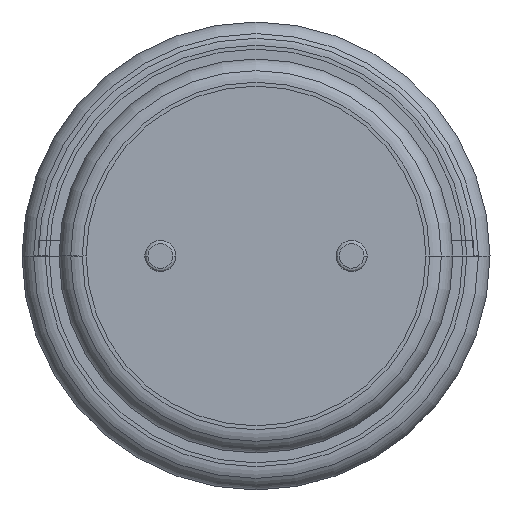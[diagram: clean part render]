
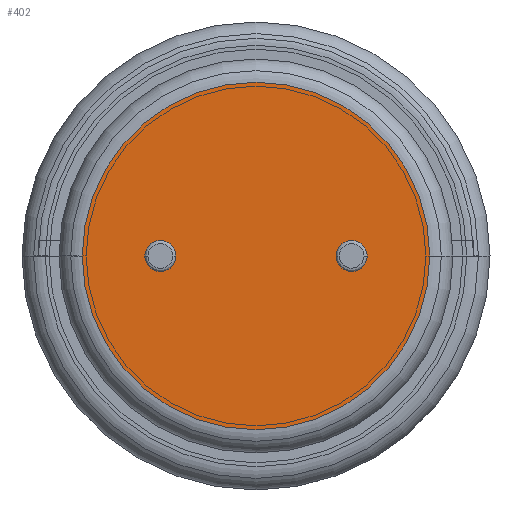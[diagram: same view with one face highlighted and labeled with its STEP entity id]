
A CAD part, left-side view. The second image highlights one B-rep face of the part: STEP entity #402.
In plain terms, the highlighted planar face has unit normal (-1, 0, 0) as drawn and (1, 0, 0) by its records, which use the part's own axes.
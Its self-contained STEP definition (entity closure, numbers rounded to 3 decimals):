
#343=CARTESIAN_POINT('Axis2P3D Location',(7.75,0.,0.)) ;
#348=CARTESIAN_POINT('Axis2P3D Location',(7.75,0.,0.)) ;
#352=CARTESIAN_POINT('Vertex',(7.75,11.2,0.)) ;
#354=CARTESIAN_POINT('Vertex',(7.75,-11.2,0.)) ;
#357=CARTESIAN_POINT('Axis2P3D Location',(7.75,0.,0.)) ;
#366=CARTESIAN_POINT('Axis2P3D Location',(7.75,-6.166,0.)) ;
#370=CARTESIAN_POINT('Vertex',(7.75,-5.166,0.)) ;
#372=CARTESIAN_POINT('Vertex',(7.75,-7.166,0.)) ;
#375=CARTESIAN_POINT('Axis2P3D Location',(7.75,-6.166,0.)) ;
#384=CARTESIAN_POINT('Axis2P3D Location',(7.75,6.166,0.)) ;
#388=CARTESIAN_POINT('Vertex',(7.75,5.166,0.)) ;
#390=CARTESIAN_POINT('Vertex',(7.75,7.166,0.)) ;
#393=CARTESIAN_POINT('Axis2P3D Location',(7.75,6.166,0.)) ;
#344=DIRECTION('Axis2P3D Direction',(1.,0.,0.)) ;
#345=DIRECTION('Axis2P3D XDirection',(0.,1.,0.)) ;
#349=DIRECTION('Axis2P3D Direction',(1.,0.,0.)) ;
#358=DIRECTION('Axis2P3D Direction',(1.,0.,0.)) ;
#367=DIRECTION('Axis2P3D Direction',(1.,0.,0.)) ;
#376=DIRECTION('Axis2P3D Direction',(1.,0.,0.)) ;
#385=DIRECTION('Axis2P3D Direction',(1.,0.,0.)) ;
#394=DIRECTION('Axis2P3D Direction',(1.,0.,0.)) ;
#346=AXIS2_PLACEMENT_3D('Plane Axis2P3D',#343,#344,#345) ;
#350=AXIS2_PLACEMENT_3D('Circle Axis2P3D',#348,#349,$) ;
#359=AXIS2_PLACEMENT_3D('Circle Axis2P3D',#357,#358,$) ;
#368=AXIS2_PLACEMENT_3D('Circle Axis2P3D',#366,#367,$) ;
#377=AXIS2_PLACEMENT_3D('Circle Axis2P3D',#375,#376,$) ;
#386=AXIS2_PLACEMENT_3D('Circle Axis2P3D',#384,#385,$) ;
#395=AXIS2_PLACEMENT_3D('Circle Axis2P3D',#393,#394,$) ;
#363=ORIENTED_EDGE('',*,*,#356,.T.) ;
#364=ORIENTED_EDGE('',*,*,#361,.T.) ;
#381=ORIENTED_EDGE('',*,*,#374,.F.) ;
#382=ORIENTED_EDGE('',*,*,#379,.F.) ;
#399=ORIENTED_EDGE('',*,*,#392,.F.) ;
#400=ORIENTED_EDGE('',*,*,#397,.F.) ;
#383=FACE_BOUND('',#380,.T.) ;
#401=FACE_BOUND('',#398,.T.) ;
#402=ADVANCED_FACE('PartBody',(#365,#383,#401),#347,.T.) ;
#351=CIRCLE('generated circle',#350,11.2) ;
#360=CIRCLE('generated circle',#359,11.2) ;
#369=CIRCLE('generated circle',#368,1.) ;
#378=CIRCLE('generated circle',#377,1.) ;
#387=CIRCLE('generated circle',#386,1.) ;
#396=CIRCLE('generated circle',#395,1.) ;
#356=EDGE_CURVE('',#353,#355,#351,.T.) ;
#361=EDGE_CURVE('',#355,#353,#360,.T.) ;
#374=EDGE_CURVE('',#371,#373,#369,.T.) ;
#379=EDGE_CURVE('',#373,#371,#378,.T.) ;
#392=EDGE_CURVE('',#389,#391,#387,.T.) ;
#397=EDGE_CURVE('',#391,#389,#396,.T.) ;
#362=EDGE_LOOP('',(#363,#364)) ;
#380=EDGE_LOOP('',(#381,#382)) ;
#398=EDGE_LOOP('',(#399,#400)) ;
#365=FACE_OUTER_BOUND('',#362,.T.) ;
#347=PLANE('Plane',#346) ;
#353=VERTEX_POINT('',#352) ;
#355=VERTEX_POINT('',#354) ;
#371=VERTEX_POINT('',#370) ;
#373=VERTEX_POINT('',#372) ;
#389=VERTEX_POINT('',#388) ;
#391=VERTEX_POINT('',#390) ;
